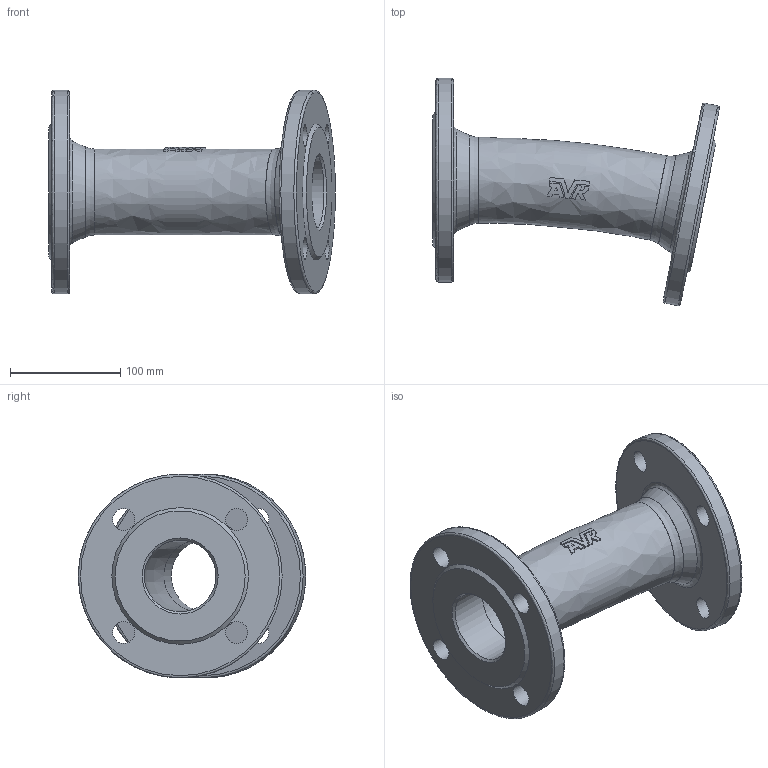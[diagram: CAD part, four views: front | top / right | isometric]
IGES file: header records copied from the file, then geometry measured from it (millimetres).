
Start section: SolidWorks IGES file using analytic representation for surfaces
Global section: file name: \\avksan2\techshare\PBM outline export from Enovia\O_712_0110_DN065_REV02.igs; native system: SolidWorks 2022; preprocessor: SolidWorks 2022; author: pbm; date: 240815.093315; units: millimetre
Bounding box: 260.37 x 206.48 x 185 mm (x, y, z)
Surface area: 210557.8 mm2 (no closed solid volume)
Topology: 0 solids, 0 shells, 112 faces, 1167 edges, 1139 vertices
Faces by surface type: revolution 69, bspline 43
